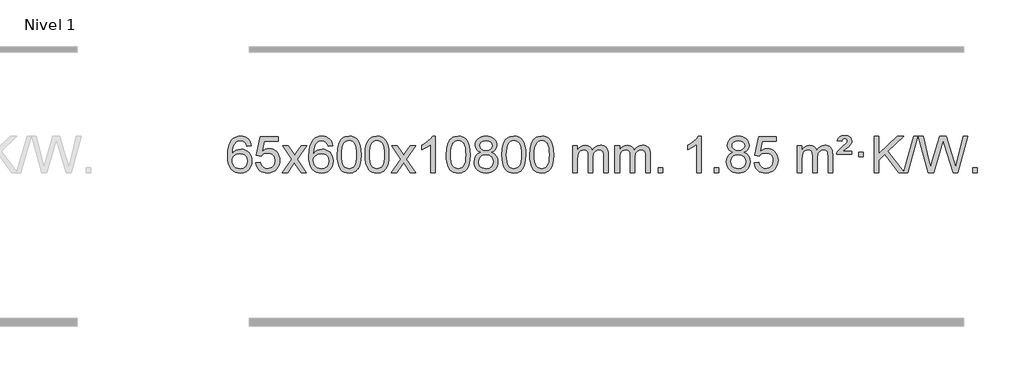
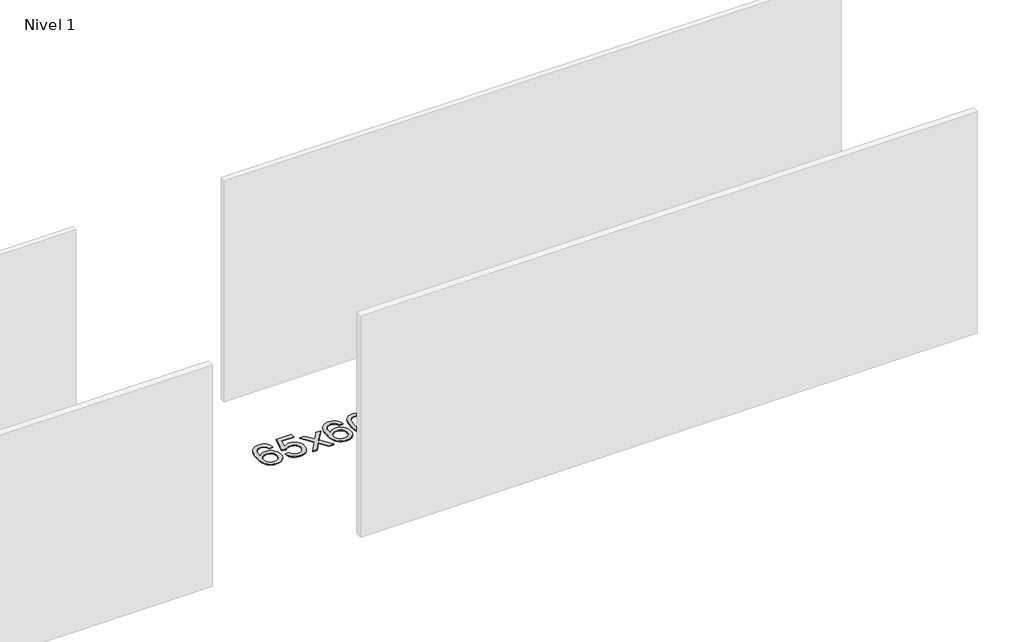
# One storey, part 9 of 12: 1 proxy.
"""IFC4 building model written with IfcOpenShell, lengths in millimetres."""

from ifc_helpers import new_model, si_unit, origin, origin_with_axes, place, context, project, spatial, polyline, outline, extrude, element, save

model = new_model("IFC4")

# Units and contexts
model_context = context("Model", 3, world=origin())
ifc_project = project(units=[si_unit("LENGTHUNIT", "METRE", prefix="MILLI")], contexts=[model_context])

# Site, building, storey
site = spatial("IfcSite", under=ifc_project)
building = spatial("IfcBuilding", under=site)
storey = spatial("IfcBuildingStorey", under=building, Name="Nivel 1", Elevation=0.0)

# Proxy
placement = place(None, origin())
element("IfcBuildingElementProxy", 1, Name="Texto de modelo 1", ObjectType="Texto de modelo 1", at=placement, inside=storey, context=model_context, shape_type="SweptSolid", body=[
    extrude(outline(polyline([(-1806.3978655, -3100.4890419), (-1856.6260206, -3106.7675613), (-1864.7194245, -3081.874213), (-1875.6577825, -3064.8780648), (-1898.4419407, -3049.2062918), (-1925.9840394, -3043.9823675), (-1949.3322834, -3047.0235253), (-1971.3071012, -3056.1469988), (-1990.1794476, -3075.3627017), (-2005.5937032, -3101.8134171), (-2016.0047637, -3139.227016), (-2019.8675246, -3191.3313693), (-1999.719854, -3167.8237098), (-1975.5745324, -3151.2567573), (-1948.7804604, -3141.434308), (-1920.6865387, -3138.1601582), (-1896.5534798, -3140.398107), (-1874.2843564, -3147.1119534), (-1853.8791684, -3158.3016975), (-1835.3379158, -3173.9673391), (-1819.9297916, -3193.1769106), (-1808.9239886, -3214.9984443), (-1802.3205068, -3239.4319401), (-1800.1193462, -3266.4773982), (-1804.26415, -3302.4439945), (-1816.6985614, -3335.786366), (-1836.3925109, -3364.0642287), (-1862.3159288, -3384.8372987), (-1893.2915928, -3397.602804), (-1928.1422805, -3401.8579724), (-1958.0848092, -3399.0375437), (-1985.1272015, -3390.5762579), (-2009.2694575, -3376.4741147), (-2030.511577, -3356.7311143), (-2047.8296219, -3330.5133908), (-2060.199654, -3296.9870783), (-2067.6216733, -3256.1521768), (-2070.0956797, -3208.0086864), (-2067.3488274, -3154.0342663), (-2059.1082708, -3107.9693092), (-2045.3740096, -3069.8138149), (-2026.146044, -3039.5677835), (-2005.305529, -3019.5243462), (-1981.1418132, -3005.2076052), (-1953.6548968, -2996.6175606), (-1922.8447797, -2993.7542124), (-1899.7111336, -2995.5261773), (-1878.7725167, -3000.8420722), (-1860.0289291, -3009.7018969), (-1843.4803707, -3022.1056515), (-1829.5744312, -3037.6364031), (-1818.7587006, -3055.8772186), (-1811.0331787, -3076.8280983), (-1806.3978655, -3100.4890419)]), holes=[polyline([(-2019.8675246, -3265.6925832), (-2016.9612568, -3287.9494439), (-2008.2424536, -3309.2007605), (-1994.7043961, -3327.472233), (-1977.340366, -3340.7895612), (-1956.383355, -3348.9197533), (-1932.0663551, -3351.6298173), (-1898.9201873, -3346.0134855), (-1885.0050509, -3338.9930708), (-1872.8618793, -3329.1644901), (-1863.0118389, -3316.9262824), (-1855.9760958, -3302.6769865), (-1850.3475012, -3268.1451299), (-1855.9025194, -3234.9989621), (-1862.846292, -3221.3781312), (-1872.5675737, -3209.725469), (-1884.7475335, -3200.3904634), (-1899.0673401, -3193.7226022), (-1934.1264943, -3188.3883133), (-1967.2236111, -3193.7226022), (-1994.9005999, -3209.725469), (-2005.8236294, -3221.2248471), (-2013.6257934, -3234.3858254), (-2018.3070918, -3249.2084042), (-2019.8675246, -3265.6925832)])]), origin_with_axes(), (0.0, 0.0, 1.0), 10.0),
    extrude(outline(polyline([(-1756.1697105, -3288.8446235), (-1705.9415554, -3282.5661041), (-1696.71998, -3312.7201649), (-1680.6312741, -3334.3148381), (-1657.749014, -3347.3010725), (-1628.1467761, -3351.6298173), (-1609.0169124, -3350.1245668), (-1592.1433915, -3345.6088153), (-1577.5262136, -3338.0825628), (-1565.1653786, -3327.5458094), (-1555.3367979, -3314.519721), (-1548.3163832, -3299.5254641), (-1542.7000514, -3263.6324441), (-1547.9607639, -3229.8363514), (-1554.5366546, -3215.9181493), (-1563.7429015, -3203.9865099), (-1575.6101615, -3194.4154467), (-1590.1690915, -3187.5789729), (-1627.3619612, -3182.1097939), (-1651.728012, -3184.2925604), (-1671.4587497, -3190.8408599), (-1687.2163618, -3200.8717757), (-1699.663036, -3213.5023908), (-1749.8911911, -3207.2238715), (-1705.9415554, -3000.0327318), (-1511.3074545, -3000.0327318), (-1511.3074545, -3050.2608869), (-1665.3273831, -3050.2608869), (-1686.8116916, -3160.919791), (-1669.0859108, -3148.2155994), (-1650.9309344, -3139.1411769), (-1632.3467623, -3133.6965234), (-1613.3333945, -3131.8816388), (-1588.8723075, -3134.1318504), (-1566.4039146, -3140.882485), (-1545.9282159, -3152.1335427), (-1527.4452113, -3167.8850234), (-1512.144386, -3187.1743027), (-1501.2152251, -3209.038756), (-1494.6577285, -3233.4783832), (-1492.4718963, -3260.4931844), (-1494.440065, -3286.5147042), (-1500.344571, -3310.7213394), (-1510.1854144, -3333.1130902), (-1523.9625951, -3353.6899565), (-1544.833767, -3374.7634634), (-1569.187555, -3389.8159684), (-1597.0239593, -3398.8474714), (-1628.3429799, -3401.8579724), (-1654.2633321, -3399.9235262), (-1677.6759554, -3394.1201877), (-1698.5808498, -3384.447957), (-1716.9780152, -3370.9068338), (-1732.2849719, -3354.1712688), (-1743.91924, -3334.915712), (-1751.8808195, -3313.1401636), (-1756.1697105, -3288.8446235)])), origin_with_axes(), (0.0, 0.0, 1.0), 10.0),
    extrude(outline(polyline([(-1467.3578188, -3395.579453), (-1360.0343781, -3247.2494325), (-1461.0792994, -3100.4890419), (-1400.6485503, -3100.4890419), (-1351.8919232, -3171.122385), (-1329.1322905, -3204.4770192), (-1309.4138155, -3177.2047007), (-1253.8881597, -3100.4890419), (-1193.4574106, -3100.4890419), (-1299.603629, -3247.2494325), (-1197.3814853, -3395.579453), (-1257.8122343, -3395.579453), (-1319.3221039, -3306.4048574), (-1330.6038184, -3290.1199477), (-1406.9270697, -3395.579453), (-1467.3578188, -3395.579453)])), origin_with_axes(), (0.0, 0.0, 1.0), 10.0),
    extrude(outline(polyline([(-908.5695936, -3100.4890419), (-958.7977487, -3106.7675613), (-966.8911525, -3081.874213), (-977.8295105, -3064.8780648), (-1000.6136688, -3049.2062918), (-1028.1557675, -3043.9823675), (-1051.5040114, -3047.0235253), (-1073.4788293, -3056.1469988), (-1092.3511756, -3075.3627017), (-1107.7654312, -3101.8134171), (-1118.1764917, -3139.227016), (-1122.0392526, -3191.3313693), (-1101.891582, -3167.8237098), (-1077.7462604, -3151.2567573), (-1050.9521884, -3141.434308), (-1022.8582667, -3138.1601582), (-998.7252079, -3140.398107), (-976.4560844, -3147.1119534), (-956.0508964, -3158.3016975), (-937.5096439, -3173.9673391), (-922.1015196, -3193.1769106), (-911.0957166, -3214.9984443), (-904.4922348, -3239.4319401), (-902.2910742, -3266.4773982), (-906.435878, -3302.4439945), (-918.8702894, -3335.786366), (-938.5642389, -3364.0642287), (-964.4876568, -3384.8372987), (-995.4633208, -3397.602804), (-1030.3140085, -3401.8579724), (-1060.2565372, -3399.0375437), (-1087.2989296, -3390.5762579), (-1111.4411855, -3376.4741147), (-1132.683305, -3356.7311143), (-1150.00135, -3330.5133908), (-1162.371382, -3296.9870783), (-1169.7934013, -3256.1521768), (-1172.2674077, -3208.0086864), (-1169.5205555, -3154.0342663), (-1161.2799988, -3107.9693092), (-1147.5457376, -3069.8138149), (-1128.317772, -3039.5677835), (-1107.477257, -3019.5243462), (-1083.3135413, -3005.2076052), (-1055.8266249, -2996.6175606), (-1025.0165078, -2993.7542124), (-1001.8828617, -2995.5261773), (-980.9442448, -3000.8420722), (-962.2006571, -3009.7018969), (-945.6520987, -3022.1056515), (-931.7461593, -3037.6364031), (-920.9304286, -3055.8772186), (-913.2049067, -3076.8280983), (-908.5695936, -3100.4890419)]), holes=[polyline([(-1122.0392526, -3265.6925832), (-1119.1329849, -3287.9494439), (-1110.4141816, -3309.2007605), (-1096.8761242, -3327.472233), (-1079.512094, -3340.7895612), (-1058.555083, -3348.9197533), (-1034.2380831, -3351.6298173), (-1001.0919154, -3346.0134855), (-987.1767789, -3338.9930708), (-975.0336074, -3329.1644901), (-965.1835669, -3316.9262824), (-958.1478238, -3302.6769865), (-952.5192293, -3268.1451299), (-958.0742474, -3234.9989621), (-965.0180201, -3221.3781312), (-974.7393018, -3209.725469), (-986.9192615, -3200.3904634), (-1001.2390682, -3193.7226022), (-1036.2982223, -3188.3883133), (-1069.3953391, -3193.7226022), (-1097.0723279, -3209.725469), (-1107.9953575, -3221.2248471), (-1115.7975215, -3234.3858254), (-1120.4788198, -3249.2084042), (-1122.0392526, -3265.6925832)])]), origin_with_axes(), (0.0, 0.0, 1.0), 10.0),
    extrude(outline(polyline([(-858.3414385, -3197.9041943), (-854.6503558, -3133.5861588), (-843.5771078, -3082.2911459), (-825.2320589, -3043.2343407), (-813.373996, -3028.0009605), (-799.7255739, -3015.6309284), (-784.2408076, -3006.0598651), (-766.8737118, -2999.2233914), (-726.4925314, -2993.7542124), (-695.5413929, -2996.991574), (-667.8276159, -3006.7036586), (-644.6510502, -3022.5103217), (-627.3115455, -3044.0314184), (-614.2149465, -3071.0830078), (-603.7670978, -3103.4811488), (-596.9244927, -3144.6226186), (-594.6436244, -3197.9041943), (-598.2979188, -3261.8543477), (-609.2608023, -3313.0267333), (-627.4954865, -3352.1203266), (-639.3259584, -3367.3996922), (-652.9651833, -3379.8341036), (-668.4683437, -3389.4695462), (-685.8906219, -3396.3520052), (-726.4925314, -3401.8579724), (-754.1572575, -3399.4667394), (-778.6827238, -3392.2930405), (-800.0689305, -3380.3368757), (-818.3158774, -3363.5982449), (-835.8270604, -3333.3399508), (-848.3350482, -3295.6381776), (-855.8398409, -3250.4929255), (-858.3414385, -3197.9041943)]), holes=[polyline([(-808.1132834, -3197.8060924), (-806.6417554, -3241.4706195), (-802.2271715, -3276.8148822), (-794.8695316, -3303.8388804), (-784.5688357, -3322.5426142), (-772.1098988, -3335.2682656), (-758.2775358, -3344.3580165), (-743.0717467, -3349.8118671), (-726.4925314, -3351.6298173), (-709.9133162, -3349.8057357), (-694.707527, -3344.3334911), (-680.875164, -3335.2130833), (-668.4162271, -3322.4445124), (-658.1155313, -3303.7101217), (-650.7578914, -3276.6922549), (-646.3433074, -3241.3909118), (-644.8717794, -3197.8060924), (-646.2942565, -3155.2973278), (-650.5616876, -3120.5753989), (-657.6740729, -3093.6403055), (-667.6314122, -3074.4920476), (-679.8818826, -3061.1440625), (-693.8736612, -3051.6097875), (-709.6067479, -3045.8892225), (-727.0811426, -3043.9823675), (-743.5745187, -3045.6623619), (-758.5227905, -3050.7023452), (-771.9259578, -3059.1023175), (-783.7840208, -3070.8622786), (-794.4280732, -3091.708925), (-802.0309678, -3119.8151094), (-806.5927045, -3155.1808319), (-808.1132834, -3197.8060924)])]), origin_with_axes(), (0.0, 0.0, 1.0), 10.0),
    extrude(outline(polyline([(-550.6939887, -3197.9041943), (-547.002906, -3133.5861588), (-535.9296579, -3082.2911459), (-517.5846091, -3043.2343407), (-505.7265461, -3028.0009605), (-492.0781241, -3015.6309284), (-476.5933578, -3006.0598651), (-459.2262619, -2999.2233914), (-418.8450816, -2993.7542124), (-387.8939431, -2996.991574), (-360.1801661, -3006.7036586), (-337.0036004, -3022.5103217), (-319.6640957, -3044.0314184), (-306.5674967, -3071.0830078), (-296.119648, -3103.4811488), (-289.2770429, -3144.6226186), (-286.9961745, -3197.9041943), (-290.650469, -3261.8543477), (-301.6133525, -3313.0267333), (-319.8480367, -3352.1203266), (-331.6785085, -3367.3996922), (-345.3177335, -3379.8341036), (-360.8208939, -3389.4695462), (-378.2431721, -3396.3520052), (-418.8450816, -3401.8579724), (-446.5098076, -3399.4667394), (-471.035274, -3392.2930405), (-492.4214806, -3380.3368757), (-510.6684276, -3363.5982449), (-528.1796106, -3333.3399508), (-540.6875984, -3295.6381776), (-548.1923911, -3250.4929255), (-550.6939887, -3197.9041943)]), holes=[polyline([(-500.4658336, -3197.8060924), (-498.9943056, -3241.4706195), (-494.5797217, -3276.8148822), (-487.2220818, -3303.8388804), (-476.9213859, -3322.5426142), (-464.462449, -3335.2682656), (-450.630086, -3344.3580165), (-435.4242968, -3349.8118671), (-418.8450816, -3351.6298173), (-402.2658663, -3349.8057357), (-387.0600772, -3344.3334911), (-373.2277142, -3335.2130833), (-360.7687773, -3322.4445124), (-350.4680814, -3303.7101217), (-343.1104415, -3276.6922549), (-338.6958576, -3241.3909118), (-337.2243296, -3197.8060924), (-338.6468066, -3155.2973278), (-342.9142378, -3120.5753989), (-350.026623, -3093.6403055), (-359.9839624, -3074.4920476), (-372.2344328, -3061.1440625), (-386.2262114, -3051.6097875), (-401.959298, -3045.8892225), (-419.4336928, -3043.9823675), (-435.9270689, -3045.6623619), (-450.8753406, -3050.7023452), (-464.278508, -3059.1023175), (-476.136571, -3070.8622786), (-486.7806234, -3091.708925), (-494.3835179, -3119.8151094), (-498.9452547, -3155.1808319), (-500.4658336, -3197.8060924)])]), origin_with_axes(), (0.0, 0.0, 1.0), 10.0),
    extrude(outline(polyline([(-261.882097, -3395.579453), (-154.5586563, -3247.2494325), (-255.6035776, -3100.4890419), (-195.1728285, -3100.4890419), (-146.4162014, -3171.122385), (-123.6565687, -3204.4770192), (-103.9380937, -3177.2047007), (-48.4124379, -3100.4890419), (12.0183112, -3100.4890419), (-94.1279072, -3247.2494325), (8.0942365, -3395.579453), (-52.3365125, -3395.579453), (-113.8463821, -3306.4048574), (-125.1280966, -3290.1199477), (-201.4513479, -3395.579453), (-261.882097, -3395.579453)])), origin_with_axes(), (0.0, 0.0, 1.0), 10.0),
    extrude(outline(polyline([(227.842415, -3395.579453), (177.6142599, -3395.579453), (177.6142599, -3082.4382987), (156.6449862, -3099.3976587), (130.0348552, -3116.3324932), (77.1579498, -3141.6918254), (77.1579498, -3094.2105225), (116.6071624, -3072.7507395), (150.7833997, -3047.219729), (177.7246245, -3020.0700378), (195.4687994, -2993.7542124), (227.842415, -2993.7542124), (227.842415, -3395.579453)])), origin_with_axes(), (0.0, 0.0, 1.0), 10.0),
    extrude(outline(polyline([(347.1342833, -3197.9041943), (350.825366, -3133.5861588), (361.898614, -3082.2911459), (380.2436629, -3043.2343407), (392.1017258, -3028.0009605), (405.7501479, -3015.6309284), (421.2349142, -3006.0598651), (438.60201, -2999.2233914), (478.9831904, -2993.7542124), (509.9343289, -2996.991574), (537.6481059, -3006.7036586), (560.8246716, -3022.5103217), (578.1641763, -3044.0314184), (591.2607753, -3071.0830078), (601.708624, -3103.4811488), (608.5512291, -3144.6226186), (610.8320974, -3197.9041943), (607.177803, -3261.8543477), (596.2149195, -3313.0267333), (577.9802353, -3352.1203266), (566.1497634, -3367.3996922), (552.5105385, -3379.8341036), (537.0073781, -3389.4695462), (519.5850999, -3396.3520052), (478.9831904, -3401.8579724), (451.3184643, -3399.4667394), (426.792998, -3392.2930405), (405.4067913, -3380.3368757), (387.1598444, -3363.5982449), (369.6486614, -3333.3399508), (357.1406736, -3295.6381776), (349.6358809, -3250.4929255), (347.1342833, -3197.9041943)]), holes=[polyline([(397.3624384, -3197.8060924), (398.8339664, -3241.4706195), (403.2485503, -3276.8148822), (410.6061902, -3303.8388804), (420.9068861, -3322.5426142), (433.365823, -3335.2682656), (447.198186, -3344.3580165), (462.4039751, -3349.8118671), (478.9831904, -3351.6298173), (495.5624056, -3349.8057357), (510.7681947, -3344.3334911), (524.6005578, -3335.2130833), (537.0594947, -3322.4445124), (547.3601905, -3303.7101217), (554.7178304, -3276.6922549), (559.1324144, -3241.3909118), (560.6039424, -3197.8060924), (559.1814653, -3155.2973278), (554.9140342, -3120.5753989), (547.8016489, -3093.6403055), (537.8443096, -3074.4920476), (525.5938392, -3061.1440625), (511.6020606, -3051.6097875), (495.8689739, -3045.8892225), (478.3945792, -3043.9823675), (461.9012031, -3045.6623619), (446.9529313, -3050.7023452), (433.549764, -3059.1023175), (421.691701, -3070.8622786), (411.0476486, -3091.708925), (403.444754, -3119.8151094), (398.8830173, -3155.1808319), (397.3624384, -3197.8060924)])]), origin_with_axes(), (0.0, 0.0, 1.0), 10.0),
    extrude(outline(polyline([(727.9657247, -3174.2616447), (701.0735509, -3161.0178929), (682.2012045, -3143.0652515), (671.05438, -3120.7716026), (667.3387719, -3094.5048281), (669.3621229, -3074.0199324), (675.4321758, -3055.2395565), (685.5489307, -3038.1637006), (699.7123875, -3022.7923645), (717.2419645, -3010.088173), (737.4570802, -3001.0137504), (760.3577344, -2995.5690969), (785.9439271, -2993.7542124), (811.6527472, -2995.6120165), (834.7250797, -3001.1854287), (855.1609245, -3010.4744491), (872.9602817, -3023.4790776), (887.3812559, -3039.1508506), (897.6819518, -3056.4413044), (903.8623693, -3075.3504389), (905.9225085, -3095.8782543), (902.2559513, -3121.2989001), (891.2562796, -3143.2124043), (872.8008662, -3161.0546811), (846.7670837, -3174.2616447), (877.681434, -3190.1909351), (900.1835494, -3213.6495436), (913.9055478, -3243.5092989), (918.4795473, -3278.6420295), (916.2109416, -3303.6947933), (909.4051247, -3326.6628926), (898.0620965, -3347.5463272), (882.1818571, -3366.3450971), (862.5982722, -3381.88198), (840.1452078, -3392.9797536), (814.8226638, -3399.6384177), (786.6306402, -3401.8579724), (758.4386166, -3399.6292206), (733.1160726, -3392.9429654), (710.6630082, -3381.7992066), (691.0794233, -3366.1979443), (675.1991839, -3347.26735), (663.8561557, -3326.135595), (657.0503388, -3302.8026795), (654.7817331, -3277.2686033), (659.5396736, -3240.7747094), (673.813495, -3210.7555386), (696.8674334, -3188.2411605), (727.9657247, -3174.2616447)]), holes=[polyline([(717.566927, -3095.9763561), (722.0182991, -3117.902123), (735.3724155, -3135.413306), (757.2368688, -3146.8912243), (787.2192514, -3150.717197), (816.5026582, -3146.9157497), (838.0360177, -3135.5114079), (851.2797695, -3118.5888361), (855.6943534, -3098.232699), (851.1326167, -3077.1040098), (837.4474065, -3059.629615), (815.6197414, -3047.8941794), (786.6306402, -3043.9823675), (757.457598, -3047.8083402), (735.6667211, -3059.2862585), (722.0918755, -3076.1107284), (717.566927, -3095.9763561)]), polyline([(705.0098882, -3275.5027698), (707.1068156, -3294.7184726), (713.3975977, -3313.3210389), (725.010406, -3329.5446349), (743.073412, -3341.623427), (764.7048733, -3349.1282197), (787.0230477, -3351.6298173), (821.2115477, -3346.3691048), (835.1052244, -3339.7932141), (846.8651855, -3330.5869672), (862.9048405, -3306.6869002), (868.2513922, -3277.0723996), (862.7331623, -3246.9551269), (846.1784725, -3222.5277625), (834.0996803, -3213.0854579), (819.9362235, -3206.3409547), (785.3553159, -3200.9453521), (751.6450625, -3206.2673783), (737.9077356, -3212.919911), (726.2489421, -3222.2334569), (710.3196517, -3246.1948375), (705.0098882, -3275.5027698)])]), origin_with_axes(), (0.0, 0.0, 1.0), 10.0),
    extrude(outline(polyline([(962.429183, -3197.9041943), (966.1202656, -3133.5861588), (977.1935137, -3082.2911459), (995.5385625, -3043.2343407), (1007.3966255, -3028.0009605), (1021.0450475, -3015.6309284), (1036.5298138, -3006.0598651), (1053.8969097, -2999.2233914), (1094.27809, -2993.7542124), (1125.2292286, -2996.991574), (1152.9430055, -3006.7036586), (1176.1195712, -3022.5103217), (1193.4590759, -3044.0314184), (1206.555675, -3071.0830078), (1217.0035236, -3103.4811488), (1223.8461287, -3144.6226186), (1226.1269971, -3197.9041943), (1222.4727026, -3261.8543477), (1211.5098192, -3313.0267333), (1193.2751349, -3352.1203266), (1181.4446631, -3367.3996922), (1167.8054381, -3379.8341036), (1152.3022777, -3389.4695462), (1134.8799996, -3396.3520052), (1094.27809, -3401.8579724), (1066.613364, -3399.4667394), (1042.0878976, -3392.2930405), (1020.701691, -3380.3368757), (1002.454744, -3363.5982449), (984.9435611, -3333.3399508), (972.4355732, -3295.6381776), (964.9307805, -3250.4929255), (962.429183, -3197.9041943)]), holes=[polyline([(1012.657338, -3197.8060924), (1014.128866, -3241.4706195), (1018.54345, -3276.8148822), (1025.9010899, -3303.8388804), (1036.2017857, -3322.5426142), (1048.6607226, -3335.2682656), (1062.4930856, -3344.3580165), (1077.6988748, -3349.8118671), (1094.27809, -3351.6298173), (1110.8573053, -3349.8057357), (1126.0630944, -3344.3334911), (1139.8954574, -3335.2130833), (1152.3543943, -3322.4445124), (1162.6550902, -3303.7101217), (1170.0127301, -3276.6922549), (1174.427314, -3241.3909118), (1175.898842, -3197.8060924), (1174.476365, -3155.2973278), (1170.2089338, -3120.5753989), (1163.0965486, -3093.6403055), (1153.1392093, -3074.4920476), (1140.8887388, -3061.1440625), (1126.8969603, -3051.6097875), (1111.1638736, -3045.8892225), (1093.6894788, -3043.9823675), (1077.1961027, -3045.6623619), (1062.247831, -3050.7023452), (1048.8446636, -3059.1023175), (1036.9866007, -3070.8622786), (1026.3425483, -3091.708925), (1018.7396537, -3119.8151094), (1014.1779169, -3155.1808319), (1012.657338, -3197.8060924)])]), origin_with_axes(), (0.0, 0.0, 1.0), 10.0),
    extrude(outline(polyline([(1270.0766328, -3197.9041943), (1273.7677155, -3133.5861588), (1284.8409635, -3082.2911459), (1303.1860124, -3043.2343407), (1315.0440753, -3028.0009605), (1328.6924974, -3015.6309284), (1344.1772637, -3006.0598651), (1361.5443595, -2999.2233914), (1401.9255399, -2993.7542124), (1432.8766784, -2996.991574), (1460.5904554, -3006.7036586), (1483.7670211, -3022.5103217), (1501.1065258, -3044.0314184), (1514.2031248, -3071.0830078), (1524.6509735, -3103.4811488), (1531.4935786, -3144.6226186), (1533.7744469, -3197.9041943), (1530.1201525, -3261.8543477), (1519.157269, -3313.0267333), (1500.9225848, -3352.1203266), (1489.0921129, -3367.3996922), (1475.452888, -3379.8341036), (1459.9497276, -3389.4695462), (1442.5274494, -3396.3520052), (1401.9255399, -3401.8579724), (1374.2608138, -3399.4667394), (1349.7353475, -3392.2930405), (1328.3491408, -3380.3368757), (1310.1021939, -3363.5982449), (1292.5910109, -3333.3399508), (1280.0830231, -3295.6381776), (1272.5782304, -3250.4929255), (1270.0766328, -3197.9041943)]), holes=[polyline([(1320.3047879, -3197.8060924), (1321.7763158, -3241.4706195), (1326.1908998, -3276.8148822), (1333.5485397, -3303.8388804), (1343.8492356, -3322.5426142), (1356.3081725, -3335.2682656), (1370.1405355, -3344.3580165), (1385.3463246, -3349.8118671), (1401.9255399, -3351.6298173), (1418.5047551, -3349.8057357), (1433.7105442, -3344.3334911), (1447.5429073, -3335.2130833), (1460.0018442, -3322.4445124), (1470.30254, -3303.7101217), (1477.6601799, -3276.6922549), (1482.0747639, -3241.3909118), (1483.5462919, -3197.8060924), (1482.1238148, -3155.2973278), (1477.8563837, -3120.5753989), (1470.7439984, -3093.6403055), (1460.7866591, -3074.4920476), (1448.5361887, -3061.1440625), (1434.5444101, -3051.6097875), (1418.8113234, -3045.8892225), (1401.3369287, -3043.9823675), (1384.8435526, -3045.6623619), (1369.8952808, -3050.7023452), (1356.4921135, -3059.1023175), (1344.6340505, -3070.8622786), (1333.9899981, -3091.708925), (1326.3871035, -3119.8151094), (1321.8253668, -3155.1808319), (1320.3047879, -3197.8060924)])]), origin_with_axes(), (0.0, 0.0, 1.0), 10.0),
    extrude(outline(polyline([(1747.244106, -3395.579453), (1747.244106, -3100.4890419), (1797.4722611, -3100.4890419), (1797.4722611, -3149.0494653), (1812.5799483, -3126.7435537), (1832.0041177, -3109.2691589), (1855.0825815, -3097.9751816), (1881.1531522, -3094.2105225), (1909.0876584, -3098.048758), (1931.4794092, -3109.5634645), (1948.2057772, -3127.9943524), (1959.1441352, -3152.5811324), (1977.4523959, -3127.0439906), (1998.3358304, -3108.803175), (2021.794439, -3097.8586857), (2047.8282215, -3094.2105225), (2067.9360383, -3095.7280358), (2085.585177, -3100.2805755), (2100.7756377, -3107.8681416), (2113.5074204, -3118.4907342), (2123.5720587, -3132.2709806), (2130.761086, -3149.3315082), (2135.0745024, -3169.6723168), (2136.5123078, -3193.2934066), (2136.5123078, -3395.579453), (2086.2841528, -3395.579453), (2086.2841528, -3214.875817), (2085.1191931, -3189.8230531), (2081.6243142, -3172.9372695), (2075.0760146, -3161.3735121), (2064.7507933, -3152.2868268), (2051.4702533, -3146.4007149), (2036.0559977, -3144.4386776), (2008.8449928, -3149.4663982), (1986.6617085, -3164.54956), (1978.0563355, -3176.1194488), (1971.9096405, -3190.7182326), (1966.9922845, -3229.0024856), (1966.9922845, -3395.579453), (1916.7641294, -3395.579453), (1916.7641294, -3209.2840106), (1913.8578616, -3180.8835206), (1905.1390583, -3160.6254854), (1889.7983791, -3148.4853796), (1867.0264836, -3144.4386776), (1847.6758907, -3147.1364789), (1829.8458767, -3155.2298828), (1815.1305968, -3168.5226856), (1805.1242066, -3186.8186835), (1799.3852475, -3212.2025411), (1797.4722611, -3246.7589232), (1797.4722611, -3395.579453), (1747.244106, -3395.579453)])), origin_with_axes(), (0.0, 0.0, 1.0), 10.0),
    extrude(outline(polyline([(2211.8545404, -3395.579453), (2211.8545404, -3100.4890419), (2262.0826955, -3100.4890419), (2262.0826955, -3149.0494653), (2277.1903828, -3126.7435537), (2296.6145521, -3109.2691589), (2319.693016, -3097.9751816), (2345.7635867, -3094.2105225), (2373.6980929, -3098.048758), (2396.0898436, -3109.5634645), (2412.8162117, -3127.9943524), (2423.7545697, -3152.5811324), (2442.0628303, -3127.0439906), (2462.9462649, -3108.803175), (2486.4048734, -3097.8586857), (2512.438656, -3094.2105225), (2532.5464727, -3095.7280358), (2550.1956114, -3100.2805755), (2565.3860721, -3107.8681416), (2578.1178548, -3118.4907342), (2588.1824931, -3132.2709806), (2595.3715204, -3149.3315082), (2599.6849368, -3169.6723168), (2601.1227423, -3193.2934066), (2601.1227423, -3395.579453), (2550.8945872, -3395.579453), (2550.8945872, -3214.875817), (2549.7296276, -3189.8230531), (2546.2347486, -3172.9372695), (2539.6864491, -3161.3735121), (2529.3612278, -3152.2868268), (2516.0806877, -3146.4007149), (2500.6664321, -3144.4386776), (2473.4554272, -3149.4663982), (2451.2721429, -3164.54956), (2442.6667699, -3176.1194488), (2436.5200749, -3190.7182326), (2431.6027189, -3229.0024856), (2431.6027189, -3395.579453), (2381.3745638, -3395.579453), (2381.3745638, -3209.2840106), (2378.4682961, -3180.8835206), (2369.7494928, -3160.6254854), (2354.4088136, -3148.4853796), (2331.6369181, -3144.4386776), (2312.2863251, -3147.1364789), (2294.4563111, -3155.2298828), (2279.7410313, -3168.5226856), (2269.734641, -3186.8186835), (2263.9956819, -3212.2025411), (2262.0826955, -3246.7589232), (2262.0826955, -3395.579453), (2211.8545404, -3395.579453)])), origin_with_axes(), (0.0, 0.0, 1.0), 10.0),
    extrude(outline(polyline([(2689.0220137, -3395.579453), (2689.0220137, -3345.3512979), (2739.2501687, -3345.3512979), (2739.2501687, -3395.579453), (2689.0220137, -3395.579453)])), origin_with_axes(), (0.0, 0.0, 1.0), 10.0),
    extrude(outline(polyline([(3166.1894869, -3395.579453), (3115.9613318, -3395.579453), (3115.9613318, -3082.4382987), (3094.9920581, -3099.3976587), (3068.3819271, -3116.3324932), (3015.5050216, -3141.6918254), (3015.5050216, -3094.2105225), (3054.9542343, -3072.7507395), (3089.1304716, -3047.219729), (3116.0716964, -3020.0700378), (3133.8158713, -2993.7542124), (3166.1894869, -2993.7542124), (3166.1894869, -3395.579453)])), origin_with_axes(), (0.0, 0.0, 1.0), 10.0),
    extrude(outline(polyline([(3310.5954327, -3395.579453), (3310.5954327, -3345.3512979), (3360.8235878, -3345.3512979), (3360.8235878, -3395.579453), (3310.5954327, -3395.579453)])), origin_with_axes(), (0.0, 0.0, 1.0), 10.0),
    extrude(outline(polyline([(3515.6283314, -3174.2616447), (3488.7361575, -3161.0178929), (3469.8638112, -3143.0652515), (3458.7169867, -3120.7716026), (3455.0013785, -3094.5048281), (3457.0247295, -3074.0199324), (3463.0947824, -3055.2395565), (3473.2115373, -3038.1637006), (3487.3749941, -3022.7923645), (3504.9045712, -3010.088173), (3525.1196868, -3001.0137504), (3548.020341, -2995.5690969), (3573.6065338, -2993.7542124), (3599.3153539, -2995.6120165), (3622.3876864, -3001.1854287), (3642.8235312, -3010.4744491), (3660.6228884, -3023.4790776), (3675.0438626, -3039.1508506), (3685.3445585, -3056.4413044), (3691.524976, -3075.3504389), (3693.5851152, -3095.8782543), (3689.9185579, -3121.2989001), (3678.9188863, -3143.2124043), (3660.4634729, -3161.0546811), (3634.4296903, -3174.2616447), (3665.3440407, -3190.1909351), (3687.846156, -3213.6495436), (3701.5681544, -3243.5092989), (3706.1421539, -3278.6420295), (3703.8735483, -3303.6947933), (3697.0677314, -3326.6628926), (3685.7247032, -3347.5463272), (3669.8444637, -3366.3450971), (3650.2608789, -3381.88198), (3627.8078144, -3392.9797536), (3602.4852704, -3399.6384177), (3574.2932469, -3401.8579724), (3546.1012233, -3399.6292206), (3520.7786793, -3392.9429654), (3498.3256148, -3381.7992066), (3478.74203, -3366.1979443), (3462.8617905, -3347.26735), (3451.5187623, -3326.135595), (3444.7129454, -3302.8026795), (3442.4443398, -3277.2686033), (3447.2022803, -3240.7747094), (3461.4761017, -3210.7555386), (3484.53004, -3188.2411605), (3515.6283314, -3174.2616447)]), holes=[polyline([(3505.2295336, -3095.9763561), (3509.6809058, -3117.902123), (3523.0350222, -3135.413306), (3544.8994754, -3146.8912243), (3574.881858, -3150.717197), (3604.1652649, -3146.9157497), (3625.6986243, -3135.5114079), (3638.9423761, -3118.5888361), (3643.3569601, -3098.232699), (3638.7952233, -3077.1040098), (3625.1100131, -3059.629615), (3603.2823481, -3047.8941794), (3574.2932469, -3043.9823675), (3545.1202046, -3047.8083402), (3523.3293278, -3059.2862585), (3509.7544822, -3076.1107284), (3505.2295336, -3095.9763561)]), polyline([(3492.6724949, -3275.5027698), (3494.7694222, -3294.7184726), (3501.0602043, -3313.3210389), (3512.6730127, -3329.5446349), (3530.7360186, -3341.623427), (3552.3674799, -3349.1282197), (3574.6856543, -3351.6298173), (3608.8741544, -3346.3691048), (3622.7678311, -3339.7932141), (3634.5277922, -3330.5869672), (3650.5674472, -3306.6869002), (3655.9139988, -3277.0723996), (3650.3957689, -3246.9551269), (3633.8410791, -3222.5277625), (3621.762287, -3213.0854579), (3607.5988301, -3206.3409547), (3573.0179226, -3200.9453521), (3539.3076691, -3206.2673783), (3525.5703423, -3212.919911), (3513.9115487, -3222.2334569), (3497.9822583, -3246.1948375), (3492.6724949, -3275.5027698)])]), origin_with_axes(), (0.0, 0.0, 1.0), 10.0),
    extrude(outline(polyline([(3750.0917896, -3288.8446235), (3800.3199447, -3282.5661041), (3809.54152, -3312.7201649), (3825.630226, -3334.3148381), (3848.5124861, -3347.3010725), (3878.1147239, -3351.6298173), (3897.2445877, -3350.1245668), (3914.1181085, -3345.6088153), (3928.7352865, -3338.0825628), (3941.0961215, -3327.5458094), (3950.9247021, -3314.519721), (3957.9451169, -3299.5254641), (3963.5614487, -3263.6324441), (3958.3007361, -3229.8363514), (3951.7248455, -3215.9181493), (3942.5185986, -3203.9865099), (3930.6513385, -3194.4154467), (3916.0924086, -3187.5789729), (3878.8995389, -3182.1097939), (3854.533488, -3184.2925604), (3834.8027504, -3190.8408599), (3819.0451382, -3200.8717757), (3806.5984641, -3213.5023908), (3756.370309, -3207.2238715), (3800.3199447, -3000.0327318), (3994.9540456, -3000.0327318), (3994.9540456, -3050.2608869), (3840.934117, -3050.2608869), (3819.4498084, -3160.919791), (3837.1755892, -3148.2155994), (3855.3305657, -3139.1411769), (3873.9147378, -3133.6965234), (3892.9281056, -3131.8816388), (3917.3891926, -3134.1318504), (3939.8575855, -3140.882485), (3960.3332842, -3152.1335427), (3978.8162887, -3167.8850234), (3994.1171141, -3187.1743027), (4005.046275, -3209.038756), (4011.6037716, -3233.4783832), (4013.7896038, -3260.4931844), (4011.8214351, -3286.5147042), (4005.9169291, -3310.7213394), (3996.0760857, -3333.1130902), (3982.298905, -3353.6899565), (3961.4277331, -3374.7634634), (3937.073945, -3389.8159684), (3909.2375407, -3398.8474714), (3877.9185202, -3401.8579724), (3851.998168, -3399.9235262), (3828.5855447, -3394.1201877), (3807.6806503, -3384.447957), (3789.2834848, -3370.9068338), (3773.9765281, -3354.1712688), (3762.3422601, -3334.915712), (3754.3806805, -3313.1401636), (3750.0917896, -3288.8446235)])), origin_with_axes(), (0.0, 0.0, 1.0), 10.0),
    extrude(outline(polyline([(4227.2592628, -3395.579453), (4227.2592628, -3100.4890419), (4277.4874179, -3100.4890419), (4277.4874179, -3149.0494653), (4292.5951052, -3126.7435537), (4312.0192745, -3109.2691589), (4335.0977383, -3097.9751816), (4361.1683091, -3094.2105225), (4389.1028152, -3098.048758), (4411.494566, -3109.5634645), (4428.2209341, -3127.9943524), (4439.159292, -3152.5811324), (4457.4675527, -3127.0439906), (4478.3509873, -3108.803175), (4501.8095958, -3097.8586857), (4527.8433783, -3094.2105225), (4547.9511951, -3095.7280358), (4565.6003338, -3100.2805755), (4580.7907945, -3107.8681416), (4593.5225772, -3118.4907342), (4603.5872155, -3132.2709806), (4610.7762428, -3149.3315082), (4615.0896592, -3169.6723168), (4616.5274647, -3193.2934066), (4616.5274647, -3395.579453), (4566.2993096, -3395.579453), (4566.2993096, -3214.875817), (4565.1343499, -3189.8230531), (4561.639471, -3172.9372695), (4555.0911715, -3161.3735121), (4544.7659501, -3152.2868268), (4531.4854101, -3146.4007149), (4516.0711545, -3144.4386776), (4488.8601496, -3149.4663982), (4466.6768653, -3164.54956), (4458.0714923, -3176.1194488), (4451.9247973, -3190.7182326), (4447.0074413, -3229.0024856), (4447.0074413, -3395.579453), (4396.7792862, -3395.579453), (4396.7792862, -3209.2840106), (4393.8730184, -3180.8835206), (4385.1542152, -3160.6254854), (4369.813536, -3148.4853796), (4347.0416405, -3144.4386776), (4327.6910475, -3147.1364789), (4309.8610335, -3155.2298828), (4295.1457537, -3168.5226856), (4285.1393634, -3186.8186835), (4279.4004043, -3212.2025411), (4277.4874179, -3246.7589232), (4277.4874179, -3395.579453), (4227.2592628, -3395.579453)])), origin_with_axes(), (0.0, 0.0, 1.0), 10.0),
    extrude(outline(polyline([(4660.4771003, -3194.6668327), (4664.3030731, -3178.8479069), (4672.6417317, -3162.9799302), (4694.1505656, -3137.8413272), (4726.1072483, -3110.1030247), (4770.2530877, -3072.726214), (4777.3899984, -3061.1992448), (4779.7689686, -3049.3779701), (4777.8805077, -3037.2869152), (4772.215125, -3027.5012541), (4762.8463969, -3021.026531), (4749.8478997, -3018.8682899), (4737.4134883, -3020.4869707), (4728.5597949, -3025.343013), (4722.1341227, -3034.8098431), (4716.9837748, -3050.2608869), (4666.7556197, -3043.9823675), (4677.5958759, -3018.7701881), (4694.224142, -3001.2099542), (4717.9893189, -2990.9092583), (4750.2403072, -2987.475693), (4786.0229626, -2991.6082341), (4810.7691581, -3004.0058573), (4825.1901323, -3022.3386434), (4829.9971237, -3044.2766731), (4825.9013708, -3067.1834586), (4813.6141122, -3088.8149199), (4793.0862969, -3108.6314968), (4756.6169284, -3136.6886303), (4731.0123416, -3163.2742358), (4829.9971237, -3163.2742358), (4829.9971237, -3194.6668327), (4660.4771003, -3194.6668327)])), origin_with_axes(), (0.0, 0.0, 1.0), 10.0),
    extrude(outline(polyline([(4905.3393563, -3219.7809102), (4905.3393563, -3169.5527552), (4955.5675114, -3169.5527552), (4955.5675114, -3219.7809102), (4905.3393563, -3219.7809102)])), origin_with_axes(), (0.0, 0.0, 1.0), 10.0),
    extrude(outline(polyline([(5346.2091394, -3395.579453), (5192.7778219, -3192.9009991), (5125.0875348, -3257.4520265), (5125.0875348, -3395.579453), (5074.8593797, -3395.579453), (5074.8593797, -2993.7542124), (5125.0875348, -2993.7542124), (5125.0875348, -3190.4484525), (5331.1014521, -2993.7542124), (5401.3423877, -2993.7542124), (5228.388799, -3158.9577537), (5403.0424089, -3389.5349332), (5514.3557366, -2993.7542124), (5559.6787984, -2993.7542124), (5446.6654495, -3395.579453), (5407.6209071, -3395.579453), (5401.3423877, -3395.579453), (5346.2091394, -3395.579453)])), origin_with_axes(), (0.0, 0.0, 1.0), 10.0),
    extrude(outline(polyline([(5674.1636753, -3395.579453), (5564.5838917, -2993.7542124), (5616.3816766, -2993.7542124), (5679.9516854, -3257.844434), (5699.5720585, -3339.3670841), (5720.5658576, -3267.2622131), (5800.2245723, -2993.7542124), (5874.8800919, -2993.7542124), (5932.7601925, -3192.0180823), (5957.5554389, -3265.5944814), (5975.8269114, -3339.3670841), (5994.8586732, -3260.1988788), (6059.0172932, -2993.7542124), (6110.8150781, -2993.7542124), (6001.1371926, -3395.579453), (5947.4754723, -3395.579453), (5851.1394405, -3085.5775584), (5837.6994849, -3042.3146358), (5822.5917976, -3094.4067263), (5734.7906281, -3395.579453), (5674.1636753, -3395.579453)])), origin_with_axes(), (0.0, 0.0, 1.0), 10.0),
    extrude(outline(polyline([(6167.3217526, -3395.579453), (6167.3217526, -3345.3512979), (6217.5499077, -3345.3512979), (6217.5499077, -3395.579453), (6167.3217526, -3395.579453)])), origin_with_axes(), (0.0, 0.0, 1.0), 10.0),
])

save(model, "model.ifc")
